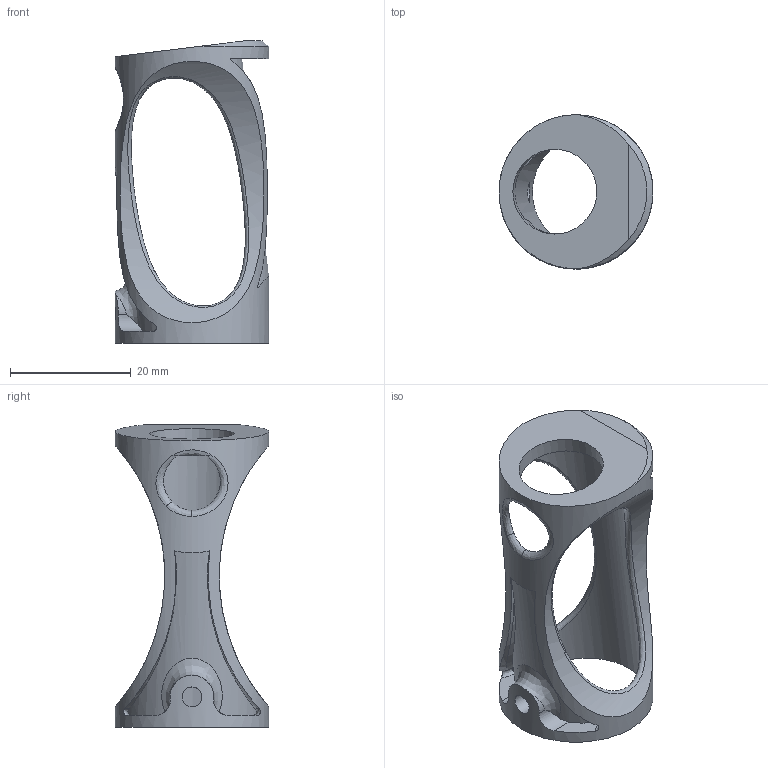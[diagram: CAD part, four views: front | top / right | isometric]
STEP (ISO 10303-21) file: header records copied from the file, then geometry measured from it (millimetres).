
FILE_DESCRIPTION(/* description */ (''),/* implementation_level */ '2;1');
FILE_NAME(/* name */ 'Booster-Motorhalterung-18mm.stp',/* time_stamp */ '2026-03-30T18:50:58+02:00',/* author */ ('rs22sud'),/* organization */ (''),/* preprocessor_version */ 'ST-DEVELOPER v20.1',/* originating_system */ 'Autodesk Inventor 2026',/* authorisation */ '');
FILE_SCHEMA (('AUTOMOTIVE_DESIGN { 1 0 10303 214 3 1 1 }'));
Length unit declared in the file: millimetre
Products named in the file (1): Delta_2_60mm
Bounding box: 25.46 x 25.45 x 50 mm (x, y, z)
Volume: 4550.3 mm3; surface area: 5228.9 mm2
Topology: 1 solids, 1 shells, 47 faces, 132 edges, 87 vertices
Faces by surface type: cylinder 19, bspline 15, plane 8, torus 3, cone 2
Full cylindrical faces by diameter (mm): 3.3 x1, 14 x1, 19.2 x1, 25.45 x1
Entity records: 3784 total; most frequent: CARTESIAN_POINT 2641, ORIENTED_EDGE 264, DIRECTION 152, EDGE_CURVE 132, VERTEX_POINT 87, B_SPLINE_CURVE_WITH_KNOTS 80, AXIS2_PLACEMENT_3D 67, EDGE_LOOP 57
